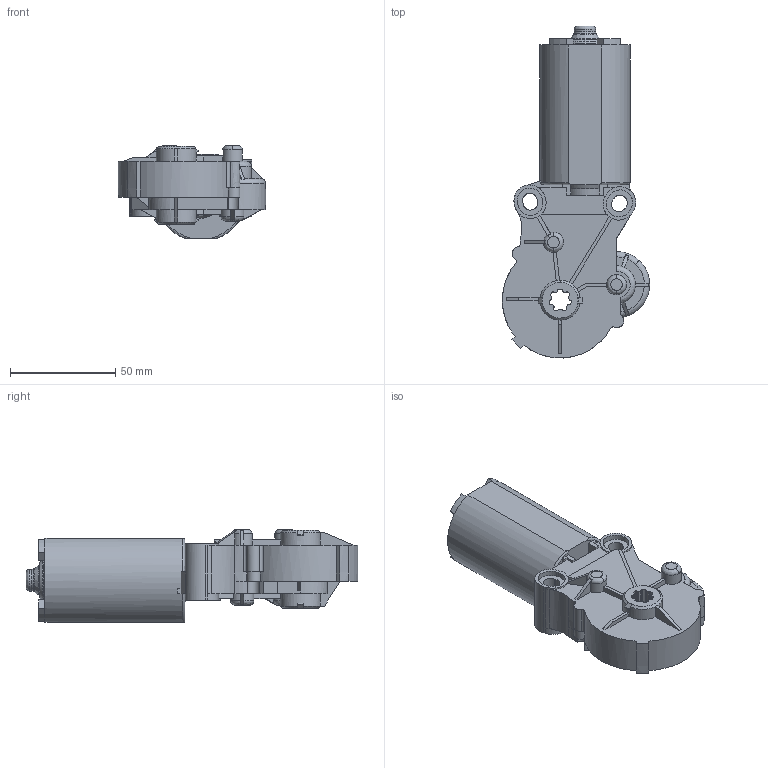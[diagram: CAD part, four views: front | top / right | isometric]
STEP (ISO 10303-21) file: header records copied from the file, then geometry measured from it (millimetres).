
FILE_DESCRIPTION (( 'STEP AP214' ), '1' );
FILE_NAME ('404764.step', '2020-10-27T09:10:17', ( '' ), ( '' ), 'SwSTEP 2.0', 'SolidWorks 2010', '' );
FILE_SCHEMA (( 'AUTOMOTIVE_DESIGN' ));
Length unit declared in the file: millimetre
Products named in the file (1): 404764
Bounding box: 70.04 x 157.96 x 44.1 mm (x, y, z)
Volume: 195531 mm3; surface area: 31877.2 mm2
Topology: 1 solids, 1 shells, 376 faces, 1304 edges, 936 vertices
Faces by surface type: bspline 251, cylinder 115, cone 10
Full cylindrical faces by diameter (mm): 9.5 x1, 10.2 x1
Entity records: 17609 total; most frequent: CARTESIAN_POINT 9167, ORIENTED_EDGE 2588, EDGE_CURVE 1294, B_SPLINE_CURVE_WITH_KNOTS 1277, VERTEX_POINT 936, EDGE_LOOP 398, FACE_OUTER_BOUND 384, ADVANCED_FACE 376
